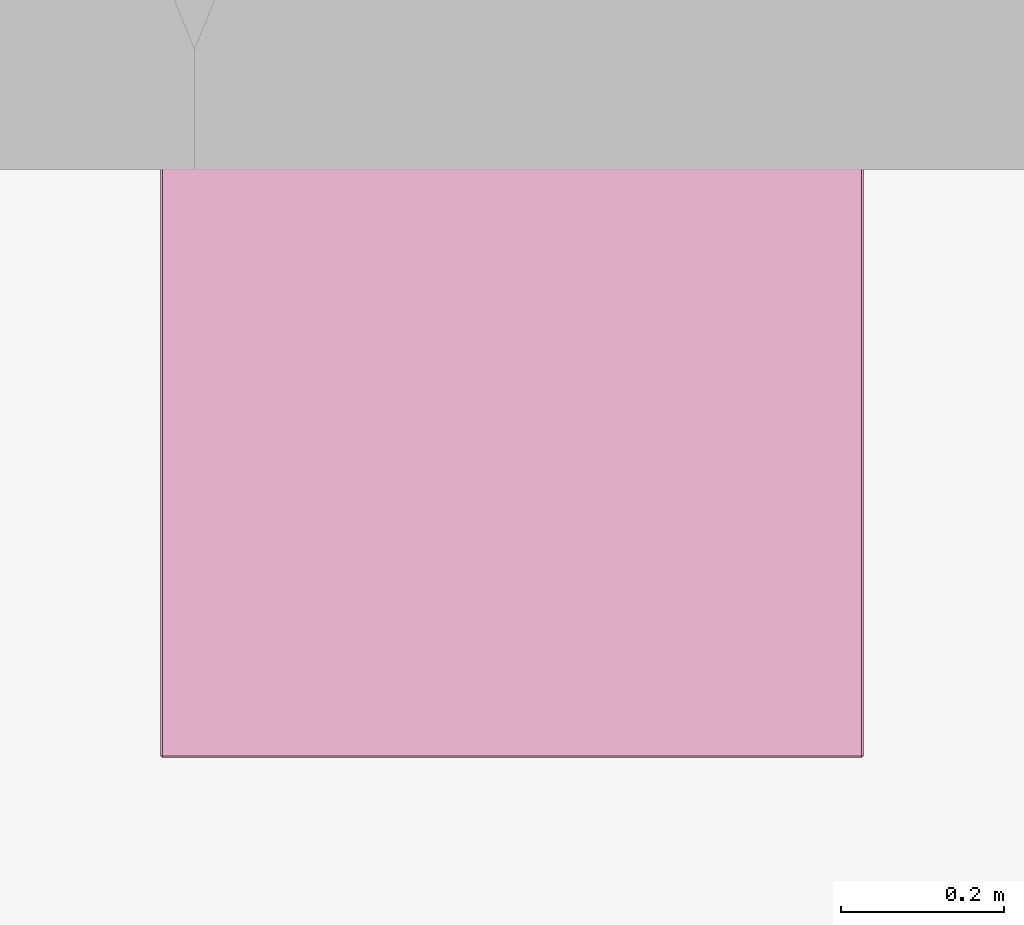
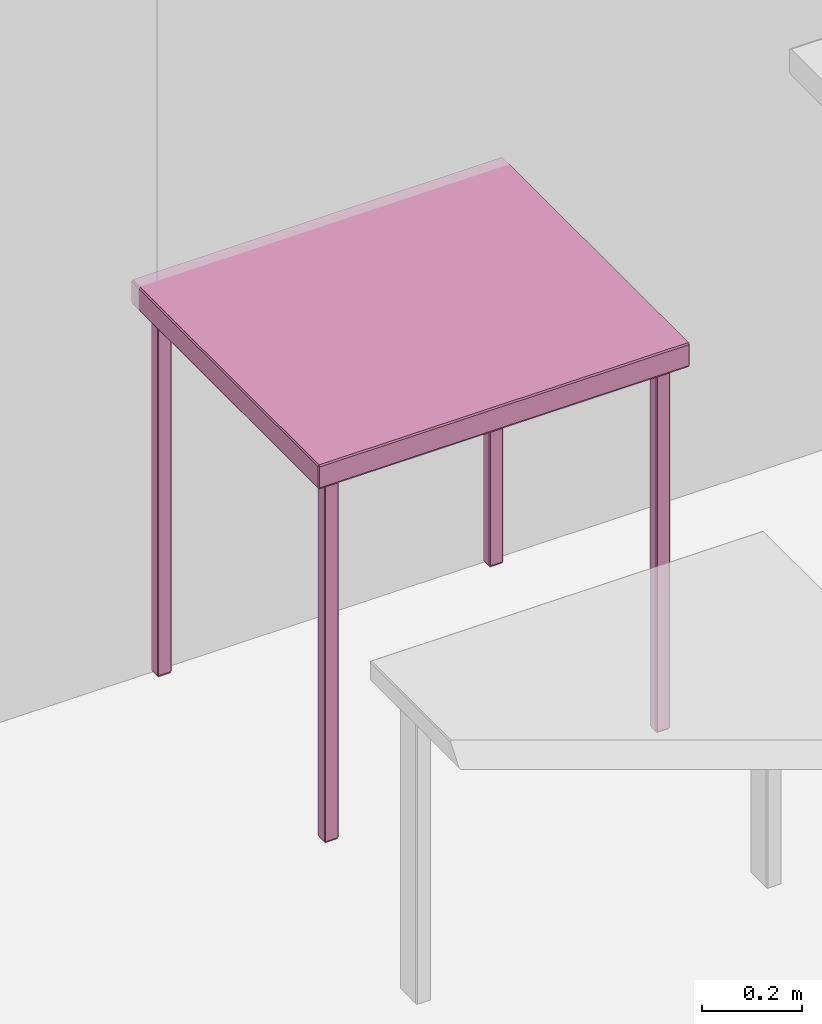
# One storey, part 5 of 8: 1 furniture element.
"""IFC4 building model written with IfcOpenShell, lengths in metres."""

from ifc_helpers import new_model, si_unit, direction, frame, origin_with_axes, place, context, project, spatial, polygons, type_object, element, save


model = new_model("IFC4")

# Units and contexts
model_context = context("Model", 3, precision=1e-05, world=origin_with_axes(), true_north=direction((-0.077, 0.997, 0.0)))
ifc_project = project(units=[si_unit("AREAUNIT", "SQUARE_METRE"), si_unit("LENGTHUNIT", "METRE")], contexts=[model_context])

# Site, building, storey, space
site_placement = place(None, origin_with_axes())
site = spatial("IfcSite", under=ifc_project, at=site_placement, Name="Site", CompositionType="ELEMENT")
building_placement = place(site_placement, origin_with_axes())
building = spatial("IfcBuilding", under=site, at=building_placement, Name="Building", CompositionType="ELEMENT")
storey_placement = place(building_placement, frame((0.0, 0.0, 0.0500000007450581), z_axis=(0.0, 0.0, 1.0), x_axis=(1.0, 0.0, 0.0)))
storey = spatial("IfcBuildingStorey", under=building, at=storey_placement, Name="Story 0", CompositionType="ELEMENT", Elevation=0.0500000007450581)
space_placement = place(storey_placement, frame((5.16750630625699, -1.75551257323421, 0.0), z_axis=(0.0, 0.0, 1.0), x_axis=(1.0, 0.0, 0.0)))
space = spatial("IfcSpace", under=storey, at=space_placement, Name="004", CompositionType="ELEMENT")

# Furniture
furniture_type = type_object("IfcFurnitureType", Name="d6a8cce7-fead-40f4-a13d-830bd7e59bea", AssemblyPlace="NOTDEFINED", PredefinedType="USERDEFINED")
furniture_placement = place(space_placement, frame((0.389085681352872, -0.341436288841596, 0.476418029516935), z_axis=(0.0, 0.0, 1.00000000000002), x_axis=(0.0, -1.00000011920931, 0.0)))
element("IfcFurniture", 1, at=furniture_placement, inside=space, type_object=furniture_type, Name="Table", ObjectType="Table", PredefinedType="USERDEFINED", context=model_context, shape_type="Tessellation", body=[
    polygons([(0.3744, 0.4304, 0.4212), (-0.3744, 0.4304, 0.4212), (0.3744, 0.4304, 0.4722), (-0.3744, 0.4304, 0.4722), (0.3744, 0.4304, 0.4722), (-0.3744, 0.4304, 0.4212), (0.3209, -0.3985, 0.4319), (0.3209, -0.3703, 0.4319), (0.3209, -0.3985, -0.4722), (0.3209, -0.3703, -0.4722), (0.3209, -0.3985, -0.4722), (0.3209, -0.3703, 0.4319), (0.3475, -0.4006, 0.4319), (0.3228, -0.4006, 0.4319), (0.3475, -0.4006, -0.4722), (0.3228, -0.4006, -0.4722), (0.3475, -0.4006, -0.4722), (0.3228, -0.4006, 0.4319), (0.3494, -0.3703, 0.4319), (0.3494, -0.3985, 0.4319), (0.3494, -0.3703, -0.4722), (0.3494, -0.3985, -0.4722), (0.3494, -0.3703, -0.4722), (0.3494, -0.3985, 0.4319), (0.3228, -0.3681, 0.4319), (0.3475, -0.3681, 0.4319), (0.3228, -0.3681, -0.4722), (0.3475, -0.3681, -0.4722), (0.3228, -0.3681, -0.4722), (0.3475, -0.3681, 0.4319), (0.3209, 0.3985, 0.4319), (0.3209, 0.3985, -0.4722), (0.3209, 0.3703, 0.4319), (0.3209, 0.3703, -0.4722), (0.3209, 0.3703, 0.4319), (0.3209, 0.3985, -0.4722), (0.3475, 0.4006, 0.4319), (0.3475, 0.4006, -0.4722), (0.3228, 0.4006, 0.4319), (0.3228, 0.4006, -0.4722), (0.3228, 0.4006, 0.4319), (0.3475, 0.4006, -0.4722), (0.3494, 0.3703, 0.4319), (0.3494, 0.3703, -0.4722), (0.3494, 0.3985, 0.4319), (0.3494, 0.3985, -0.4722), (0.3494, 0.3985, 0.4319), (0.3494, 0.3703, -0.4722), (0.3228, 0.3681, 0.4319), (0.3228, 0.3681, -0.4722), (0.3475, 0.3681, 0.4319), (0.3475, 0.3681, -0.4722), (0.3475, 0.3681, 0.4319), (0.3228, 0.3681, -0.4722), (0.3763, 0.4282, 0.4212), (0.3763, 0.4282, 0.4722), (0.3763, -0.4282, 0.4212), (0.3763, -0.4282, 0.4722), (0.3763, -0.4282, 0.4212), (0.3763, 0.4282, 0.4722), (-0.3763, 0.4282, 0.4722), (-0.3763, 0.4282, 0.4212), (-0.3763, -0.4282, 0.4722), (-0.3763, -0.4282, 0.4212), (-0.3763, -0.4282, 0.4722), (-0.3763, 0.4282, 0.4212), (-0.3209, -0.3985, 0.4319), (-0.3209, -0.3985, -0.4722), (-0.3209, -0.3703, 0.4319), (-0.3209, -0.3703, -0.4722), (-0.3209, -0.3703, 0.4319), (-0.3209, -0.3985, -0.4722), (-0.3475, -0.4006, 0.4319), (-0.3475, -0.4006, -0.4722), (-0.3228, -0.4006, 0.4319), (-0.3228, -0.4006, -0.4722), (-0.3228, -0.4006, 0.4319), (-0.3475, -0.4006, -0.4722), (-0.3494, -0.3703, 0.4319), (-0.3494, -0.3703, -0.4722), (-0.3494, -0.3985, 0.4319), (-0.3494, -0.3985, -0.4722), (-0.3494, -0.3985, 0.4319), (-0.3494, -0.3703, -0.4722), (-0.3228, -0.3681, 0.4319), (-0.3228, -0.3681, -0.4722), (-0.3475, -0.3681, 0.4319), (-0.3475, -0.3681, -0.4722), (-0.3475, -0.3681, 0.4319), (-0.3228, -0.3681, -0.4722), (-0.3209, 0.3985, 0.4319), (-0.3209, 0.3703, 0.4319), (-0.3209, 0.3985, -0.4722), (-0.3209, 0.3703, -0.4722), (-0.3209, 0.3985, -0.4722), (-0.3209, 0.3703, 0.4319), (-0.3475, 0.4006, 0.4319), (-0.3228, 0.4006, 0.4319), (-0.3475, 0.4006, -0.4722), (-0.3228, 0.4006, -0.4722), (-0.3475, 0.4006, -0.4722), (-0.3228, 0.4006, 0.4319), (-0.3494, 0.3703, 0.4319), (-0.3494, 0.3985, 0.4319), (-0.3494, 0.3703, -0.4722), (-0.3494, 0.3985, -0.4722), (-0.3494, 0.3703, -0.4722), (-0.3494, 0.3985, 0.4319), (-0.3228, 0.3681, 0.4319), (-0.3475, 0.3681, 0.4319), (-0.3228, 0.3681, -0.4722), (-0.3475, 0.3681, -0.4722), (-0.3228, 0.3681, -0.4722), (-0.3475, 0.3681, 0.4319), (-0.3744, 0.4282, 0.4764), (-0.3744, -0.4282, 0.4764), (0.3744, 0.4282, 0.4764), (0.3744, -0.4282, 0.4764), (0.3744, 0.4282, 0.4764), (-0.3744, -0.4282, 0.4764), (0.3744, -0.4304, 0.4212), (0.3744, -0.4304, 0.4722), (-0.3744, -0.4304, 0.4212), (-0.3744, -0.4304, 0.4722), (-0.3744, -0.4304, 0.4212), (0.3744, -0.4304, 0.4722), (0.3744, -0.4282, 0.417), (-0.3744, -0.4282, 0.417), (0.3744, 0.4282, 0.417), (-0.3744, 0.4282, 0.417), (0.3744, 0.4282, 0.417), (-0.3744, -0.4282, 0.417), (0.3475, -0.3985, 0.4361), (0.3475, -0.3703, 0.4361), (0.3228, -0.3985, 0.4361), (0.3228, -0.3703, 0.4361), (0.3228, -0.3985, 0.4361), (0.3475, -0.3703, 0.4361), (0.3475, -0.3703, -0.4764), (0.3475, -0.3985, -0.4764), (0.3228, -0.3703, -0.4764), (0.3228, -0.3985, -0.4764), (0.3228, -0.3703, -0.4764), (0.3475, -0.3985, -0.4764), (0.3475, 0.3985, -0.4764), (0.3475, 0.3703, -0.4764), (0.3228, 0.3985, -0.4764), (0.3228, 0.3703, -0.4764), (0.3228, 0.3985, -0.4764), (0.3475, 0.3703, -0.4764), (0.3475, 0.3703, 0.4361), (0.3475, 0.3985, 0.4361), (0.3228, 0.3703, 0.4361), (0.3228, 0.3985, 0.4361), (0.3228, 0.3703, 0.4361), (0.3475, 0.3985, 0.4361), (-0.3475, -0.3985, -0.4764), (-0.3475, -0.3703, -0.4764), (-0.3228, -0.3985, -0.4764), (-0.3228, -0.3703, -0.4764), (-0.3228, -0.3985, -0.4764), (-0.3475, -0.3703, -0.4764), (-0.3475, -0.3703, 0.4361), (-0.3475, -0.3985, 0.4361), (-0.3228, -0.3703, 0.4361), (-0.3228, -0.3985, 0.4361), (-0.3228, -0.3703, 0.4361), (-0.3475, -0.3985, 0.4361), (-0.3475, 0.3985, 0.4361), (-0.3475, 0.3703, 0.4361), (-0.3228, 0.3985, 0.4361), (-0.3228, 0.3703, 0.4361), (-0.3228, 0.3985, 0.4361), (-0.3475, 0.3703, 0.4361), (-0.3475, 0.3703, -0.4764), (-0.3475, 0.3985, -0.4764), (-0.3228, 0.3703, -0.4764), (-0.3228, 0.3985, -0.4764), (-0.3228, 0.3703, -0.4764), (-0.3475, 0.3985, -0.4764), (-0.3744, 0.4282, 0.4764), (-0.3744, 0.4304, 0.4722), (-0.3763, 0.4282, 0.4722), (0.3228, -0.3703, -0.4764), (0.3209, -0.3703, -0.4722), (0.3228, -0.3681, -0.4722), (0.3228, -0.3985, -0.4764), (0.3228, -0.4006, -0.4722), (0.3209, -0.3985, -0.4722), (0.3475, -0.3985, -0.4764), (0.3494, -0.3985, -0.4722), (0.3475, -0.4006, -0.4722), (0.3475, -0.3703, -0.4764), (0.3475, -0.3681, -0.4722), (0.3494, -0.3703, -0.4722), (0.3228, -0.3703, 0.4361), (0.3228, -0.3681, 0.4319), (0.3209, -0.3703, 0.4319), (0.3228, 0.3681, -0.4722), (0.3209, 0.3703, -0.4722), (0.3228, 0.3703, -0.4764), (0.3228, 0.3985, 0.4361), (0.3228, 0.4006, 0.4319), (0.3209, 0.3985, 0.4319), (0.3475, 0.3985, 0.4361), (0.3494, 0.3985, 0.4319), (0.3475, 0.4006, 0.4319), (0.3475, 0.3703, 0.4361), (0.3475, 0.3681, 0.4319), (0.3494, 0.3703, 0.4319), (0.3744, -0.4304, 0.4722), (0.3763, -0.4282, 0.4722), (0.3744, -0.4282, 0.4764), (0.3744, 0.4282, 0.4764), (0.3763, 0.4282, 0.4722), (0.3744, 0.4304, 0.4722), (-0.3744, -0.4304, 0.4212), (-0.3763, -0.4282, 0.4212), (-0.3744, -0.4282, 0.417), (-0.3744, 0.4282, 0.417), (-0.3763, 0.4282, 0.4212), (-0.3744, 0.4304, 0.4212), (-0.3228, -0.3681, -0.4722), (-0.3209, -0.3703, -0.4722), (-0.3228, -0.3703, -0.4764), (-0.3228, -0.3985, 0.4361), (-0.3228, -0.4006, 0.4319), (-0.3209, -0.3985, 0.4319), (-0.3475, -0.3985, 0.4361), (-0.3494, -0.3985, 0.4319), (-0.3475, -0.4006, 0.4319), (-0.3475, -0.3703, 0.4361), (-0.3475, -0.3681, 0.4319), (-0.3494, -0.3703, 0.4319), (-0.3228, 0.3703, -0.4764), (-0.3209, 0.3703, -0.4722), (-0.3228, 0.3681, -0.4722), (-0.3228, 0.3985, -0.4764), (-0.3228, 0.4006, -0.4722), (-0.3209, 0.3985, -0.4722), (-0.3475, 0.3985, -0.4764), (-0.3494, 0.3985, -0.4722), (-0.3475, 0.4006, -0.4722), (-0.3475, 0.3703, -0.4764), (-0.3475, 0.3681, -0.4722), (-0.3494, 0.3703, -0.4722), (-0.3228, 0.3703, 0.4361), (-0.3228, 0.3681, 0.4319), (-0.3209, 0.3703, 0.4319), (-0.3744, -0.4304, 0.4722), (-0.3744, -0.4282, 0.4764), (-0.3763, -0.4282, 0.4722), (0.3744, -0.4304, 0.4212), (0.3744, -0.4282, 0.417), (0.3763, -0.4282, 0.4212), (0.3763, 0.4282, 0.4212), (0.3744, 0.4282, 0.417), (0.3744, 0.4304, 0.4212), (0.3475, -0.3681, 0.4319), (0.3475, -0.3703, 0.4361), (0.3494, -0.3703, 0.4319), (0.3494, -0.3985, 0.4319), (0.3475, -0.3985, 0.4361), (0.3475, -0.4006, 0.4319), (0.3228, -0.4006, 0.4319), (0.3228, -0.3985, 0.4361), (0.3209, -0.3985, 0.4319), (0.3475, 0.3681, -0.4722), (0.3475, 0.3703, -0.4764), (0.3494, 0.3703, -0.4722), (0.3494, 0.3985, -0.4722), (0.3475, 0.3985, -0.4764), (0.3475, 0.4006, -0.4722), (0.3228, 0.4006, -0.4722), (0.3228, 0.3985, -0.4764), (0.3209, 0.3985, -0.4722), (0.3228, 0.3681, 0.4319), (0.3228, 0.3703, 0.4361), (0.3209, 0.3703, 0.4319), (-0.3475, -0.3681, -0.4722), (-0.3475, -0.3703, -0.4764), (-0.3494, -0.3703, -0.4722), (-0.3494, -0.3985, -0.4722), (-0.3475, -0.3985, -0.4764), (-0.3475, -0.4006, -0.4722), (-0.3228, -0.4006, -0.4722), (-0.3228, -0.3985, -0.4764), (-0.3209, -0.3985, -0.4722), (-0.3228, -0.3681, 0.4319), (-0.3228, -0.3703, 0.4361), (-0.3209, -0.3703, 0.4319), (-0.3475, 0.3681, 0.4319), (-0.3475, 0.3703, 0.4361), (-0.3494, 0.3703, 0.4319), (-0.3494, 0.3985, 0.4319), (-0.3475, 0.3985, 0.4361), (-0.3475, 0.4006, 0.4319), (-0.3228, 0.4006, 0.4319), (-0.3228, 0.3985, 0.4361), (-0.3209, 0.3985, 0.4319), (-0.3744, 0.4304, 0.4722), (-0.3744, 0.4304, 0.4212), (-0.3763, 0.4282, 0.4722), (-0.3763, 0.4282, 0.4212), (-0.3763, 0.4282, 0.4722), (-0.3744, 0.4304, 0.4212), (-0.3744, 0.4304, 0.4212), (0.3744, 0.4304, 0.4212), (-0.3744, 0.4282, 0.417), (0.3744, 0.4282, 0.417), (-0.3744, 0.4282, 0.417), (0.3744, 0.4304, 0.4212), (0.3744, 0.4304, 0.4212), (0.3744, 0.4304, 0.4722), (0.3763, 0.4282, 0.4212), (0.3763, 0.4282, 0.4722), (0.3763, 0.4282, 0.4212), (0.3744, 0.4304, 0.4722), (0.3744, 0.4304, 0.4722), (-0.3744, 0.4304, 0.4722), (0.3744, 0.4282, 0.4764), (-0.3744, 0.4282, 0.4764), (0.3744, 0.4282, 0.4764), (-0.3744, 0.4304, 0.4722), (0.3209, -0.3703, -0.4722), (0.3209, -0.3703, 0.4319), (0.3228, -0.3681, -0.4722), (0.3228, -0.3681, 0.4319), (0.3228, -0.3681, -0.4722), (0.3209, -0.3703, 0.4319), (0.3209, -0.3703, 0.4319), (0.3209, -0.3985, 0.4319), (0.3228, -0.3703, 0.4361), (0.3228, -0.3985, 0.4361), (0.3228, -0.3703, 0.4361), (0.3209, -0.3985, 0.4319), (0.3209, -0.3985, 0.4319), (0.3209, -0.3985, -0.4722), (0.3228, -0.4006, 0.4319), (0.3228, -0.4006, -0.4722), (0.3228, -0.4006, 0.4319), (0.3209, -0.3985, -0.4722), (0.3209, -0.3985, -0.4722), (0.3209, -0.3703, -0.4722), (0.3228, -0.3985, -0.4764), (0.3228, -0.3703, -0.4764), (0.3228, -0.3985, -0.4764), (0.3209, -0.3703, -0.4722), (0.3228, -0.4006, 0.4319), (0.3475, -0.4006, 0.4319), (0.3228, -0.3985, 0.4361), (0.3475, -0.3985, 0.4361), (0.3228, -0.3985, 0.4361), (0.3475, -0.4006, 0.4319), (0.3475, -0.4006, 0.4319), (0.3475, -0.4006, -0.4722), (0.3494, -0.3985, 0.4319), (0.3494, -0.3985, -0.4722), (0.3494, -0.3985, 0.4319), (0.3475, -0.4006, -0.4722), (0.3475, -0.4006, -0.4722), (0.3228, -0.4006, -0.4722), (0.3475, -0.3985, -0.4764), (0.3228, -0.3985, -0.4764), (0.3475, -0.3985, -0.4764), (0.3228, -0.4006, -0.4722), (0.3494, -0.3985, 0.4319), (0.3494, -0.3703, 0.4319), (0.3475, -0.3985, 0.4361), (0.3475, -0.3703, 0.4361), (0.3475, -0.3985, 0.4361), (0.3494, -0.3703, 0.4319), (0.3494, -0.3703, 0.4319), (0.3494, -0.3703, -0.4722), (0.3475, -0.3681, 0.4319), (0.3475, -0.3681, -0.4722), (0.3475, -0.3681, 0.4319), (0.3494, -0.3703, -0.4722), (0.3494, -0.3703, -0.4722), (0.3494, -0.3985, -0.4722), (0.3475, -0.3703, -0.4764), (0.3475, -0.3985, -0.4764), (0.3475, -0.3703, -0.4764), (0.3494, -0.3985, -0.4722), (0.3475, -0.3681, 0.4319), (0.3228, -0.3681, 0.4319), (0.3475, -0.3703, 0.4361), (0.3228, -0.3703, 0.4361), (0.3475, -0.3703, 0.4361), (0.3228, -0.3681, 0.4319), (0.3228, -0.3681, -0.4722), (0.3475, -0.3681, -0.4722), (0.3228, -0.3703, -0.4764), (0.3475, -0.3703, -0.4764), (0.3228, -0.3703, -0.4764), (0.3475, -0.3681, -0.4722), (0.3209, 0.3703, -0.4722), (0.3209, 0.3985, -0.4722), (0.3228, 0.3703, -0.4764), (0.3228, 0.3985, -0.4764), (0.3228, 0.3703, -0.4764), (0.3209, 0.3985, -0.4722), (0.3209, 0.3985, -0.4722), (0.3209, 0.3985, 0.4319), (0.3228, 0.4006, -0.4722), (0.3228, 0.4006, 0.4319), (0.3228, 0.4006, -0.4722), (0.3209, 0.3985, 0.4319), (0.3209, 0.3985, 0.4319), (0.3209, 0.3703, 0.4319), (0.3228, 0.3985, 0.4361), (0.3228, 0.3703, 0.4361), (0.3228, 0.3985, 0.4361), (0.3209, 0.3703, 0.4319), (0.3209, 0.3703, 0.4319), (0.3209, 0.3703, -0.4722), (0.3228, 0.3681, 0.4319), (0.3228, 0.3681, -0.4722), (0.3228, 0.3681, 0.4319), (0.3209, 0.3703, -0.4722), (0.3228, 0.4006, -0.4722), (0.3475, 0.4006, -0.4722), (0.3228, 0.3985, -0.4764), (0.3475, 0.3985, -0.4764), (0.3228, 0.3985, -0.4764), (0.3475, 0.4006, -0.4722), (0.3475, 0.4006, -0.4722), (0.3475, 0.4006, 0.4319), (0.3494, 0.3985, -0.4722), (0.3494, 0.3985, 0.4319), (0.3494, 0.3985, -0.4722), (0.3475, 0.4006, 0.4319), (0.3475, 0.4006, 0.4319), (0.3228, 0.4006, 0.4319), (0.3475, 0.3985, 0.4361), (0.3228, 0.3985, 0.4361), (0.3475, 0.3985, 0.4361), (0.3228, 0.4006, 0.4319), (0.3494, 0.3985, -0.4722), (0.3494, 0.3703, -0.4722), (0.3475, 0.3985, -0.4764), (0.3475, 0.3703, -0.4764), (0.3475, 0.3985, -0.4764), (0.3494, 0.3703, -0.4722), (0.3494, 0.3703, -0.4722), (0.3494, 0.3703, 0.4319), (0.3475, 0.3681, -0.4722), (0.3475, 0.3681, 0.4319), (0.3475, 0.3681, -0.4722), (0.3494, 0.3703, 0.4319), (0.3494, 0.3703, 0.4319), (0.3494, 0.3985, 0.4319), (0.3475, 0.3703, 0.4361), (0.3475, 0.3985, 0.4361), (0.3475, 0.3703, 0.4361), (0.3494, 0.3985, 0.4319), (0.3475, 0.3681, -0.4722), (0.3228, 0.3681, -0.4722), (0.3475, 0.3703, -0.4764), (0.3228, 0.3703, -0.4764), (0.3475, 0.3703, -0.4764), (0.3228, 0.3681, -0.4722), (0.3228, 0.3681, 0.4319), (0.3475, 0.3681, 0.4319), (0.3228, 0.3703, 0.4361), (0.3475, 0.3703, 0.4361), (0.3228, 0.3703, 0.4361), (0.3475, 0.3681, 0.4319), (0.3763, -0.4282, 0.4722), (0.3763, 0.4282, 0.4722), (0.3744, -0.4282, 0.4764), (0.3744, 0.4282, 0.4764), (0.3744, -0.4282, 0.4764), (0.3763, 0.4282, 0.4722), (0.3763, 0.4282, 0.4212), (0.3763, -0.4282, 0.4212), (0.3744, 0.4282, 0.417), (0.3744, -0.4282, 0.417), (0.3744, 0.4282, 0.417), (0.3763, -0.4282, 0.4212), (0.3763, -0.4282, 0.4212), (0.3763, -0.4282, 0.4722), (0.3744, -0.4304, 0.4212), (0.3744, -0.4304, 0.4722), (0.3744, -0.4304, 0.4212), (0.3763, -0.4282, 0.4722), (-0.3763, -0.4282, 0.4212), (-0.3763, 0.4282, 0.4212), (-0.3744, -0.4282, 0.417), (-0.3744, 0.4282, 0.417), (-0.3744, -0.4282, 0.417), (-0.3763, 0.4282, 0.4212), (-0.3763, 0.4282, 0.4722), (-0.3763, -0.4282, 0.4722), (-0.3744, 0.4282, 0.4764), (-0.3744, -0.4282, 0.4764), (-0.3744, 0.4282, 0.4764), (-0.3763, -0.4282, 0.4722), (-0.3763, -0.4282, 0.4722), (-0.3763, -0.4282, 0.4212), (-0.3744, -0.4304, 0.4722), (-0.3744, -0.4304, 0.4212), (-0.3744, -0.4304, 0.4722), (-0.3763, -0.4282, 0.4212), (-0.3209, -0.3703, -0.4722), (-0.3209, -0.3985, -0.4722), (-0.3228, -0.3703, -0.4764), (-0.3228, -0.3985, -0.4764), (-0.3228, -0.3703, -0.4764), (-0.3209, -0.3985, -0.4722), (-0.3209, -0.3985, -0.4722), (-0.3209, -0.3985, 0.4319), (-0.3228, -0.4006, -0.4722), (-0.3228, -0.4006, 0.4319), (-0.3228, -0.4006, -0.4722), (-0.3209, -0.3985, 0.4319), (-0.3209, -0.3985, 0.4319), (-0.3209, -0.3703, 0.4319), (-0.3228, -0.3985, 0.4361), (-0.3228, -0.3703, 0.4361), (-0.3228, -0.3985, 0.4361), (-0.3209, -0.3703, 0.4319), (-0.3209, -0.3703, 0.4319), (-0.3209, -0.3703, -0.4722), (-0.3228, -0.3681, 0.4319), (-0.3228, -0.3681, -0.4722), (-0.3228, -0.3681, 0.4319), (-0.3209, -0.3703, -0.4722), (-0.3228, -0.4006, -0.4722), (-0.3475, -0.4006, -0.4722), (-0.3228, -0.3985, -0.4764), (-0.3475, -0.3985, -0.4764), (-0.3228, -0.3985, -0.4764), (-0.3475, -0.4006, -0.4722), (-0.3475, -0.4006, -0.4722), (-0.3475, -0.4006, 0.4319), (-0.3494, -0.3985, -0.4722), (-0.3494, -0.3985, 0.4319), (-0.3494, -0.3985, -0.4722), (-0.3475, -0.4006, 0.4319), (-0.3475, -0.4006, 0.4319), (-0.3228, -0.4006, 0.4319), (-0.3475, -0.3985, 0.4361), (-0.3228, -0.3985, 0.4361), (-0.3475, -0.3985, 0.4361), (-0.3228, -0.4006, 0.4319), (-0.3494, -0.3985, -0.4722), (-0.3494, -0.3703, -0.4722), (-0.3475, -0.3985, -0.4764), (-0.3475, -0.3703, -0.4764), (-0.3475, -0.3985, -0.4764), (-0.3494, -0.3703, -0.4722), (-0.3494, -0.3703, -0.4722), (-0.3494, -0.3703, 0.4319), (-0.3475, -0.3681, -0.4722), (-0.3475, -0.3681, 0.4319), (-0.3475, -0.3681, -0.4722), (-0.3494, -0.3703, 0.4319), (-0.3494, -0.3703, 0.4319), (-0.3494, -0.3985, 0.4319), (-0.3475, -0.3703, 0.4361), (-0.3475, -0.3985, 0.4361), (-0.3475, -0.3703, 0.4361), (-0.3494, -0.3985, 0.4319), (-0.3475, -0.3681, -0.4722), (-0.3228, -0.3681, -0.4722), (-0.3475, -0.3703, -0.4764), (-0.3228, -0.3703, -0.4764), (-0.3475, -0.3703, -0.4764), (-0.3228, -0.3681, -0.4722), (-0.3228, -0.3681, 0.4319), (-0.3475, -0.3681, 0.4319), (-0.3228, -0.3703, 0.4361), (-0.3475, -0.3703, 0.4361), (-0.3228, -0.3703, 0.4361), (-0.3475, -0.3681, 0.4319), (-0.3209, 0.3703, -0.4722), (-0.3209, 0.3703, 0.4319), (-0.3228, 0.3681, -0.4722), (-0.3228, 0.3681, 0.4319), (-0.3228, 0.3681, -0.4722), (-0.3209, 0.3703, 0.4319), (-0.3209, 0.3703, 0.4319), (-0.3209, 0.3985, 0.4319), (-0.3228, 0.3703, 0.4361), (-0.3228, 0.3985, 0.4361), (-0.3228, 0.3703, 0.4361), (-0.3209, 0.3985, 0.4319), (-0.3209, 0.3985, 0.4319), (-0.3209, 0.3985, -0.4722), (-0.3228, 0.4006, 0.4319), (-0.3228, 0.4006, -0.4722), (-0.3228, 0.4006, 0.4319), (-0.3209, 0.3985, -0.4722), (-0.3209, 0.3985, -0.4722), (-0.3209, 0.3703, -0.4722), (-0.3228, 0.3985, -0.4764), (-0.3228, 0.3703, -0.4764), (-0.3228, 0.3985, -0.4764), (-0.3209, 0.3703, -0.4722), (-0.3228, 0.4006, 0.4319), (-0.3475, 0.4006, 0.4319), (-0.3228, 0.3985, 0.4361), (-0.3475, 0.3985, 0.4361), (-0.3228, 0.3985, 0.4361), (-0.3475, 0.4006, 0.4319), (-0.3475, 0.4006, 0.4319), (-0.3475, 0.4006, -0.4722), (-0.3494, 0.3985, 0.4319), (-0.3494, 0.3985, -0.4722), (-0.3494, 0.3985, 0.4319), (-0.3475, 0.4006, -0.4722), (-0.3475, 0.4006, -0.4722), (-0.3228, 0.4006, -0.4722), (-0.3475, 0.3985, -0.4764), (-0.3228, 0.3985, -0.4764), (-0.3475, 0.3985, -0.4764), (-0.3228, 0.4006, -0.4722), (-0.3494, 0.3985, 0.4319), (-0.3494, 0.3703, 0.4319), (-0.3475, 0.3985, 0.4361), (-0.3475, 0.3703, 0.4361), (-0.3475, 0.3985, 0.4361), (-0.3494, 0.3703, 0.4319), (-0.3494, 0.3703, 0.4319), (-0.3494, 0.3703, -0.4722), (-0.3475, 0.3681, 0.4319), (-0.3475, 0.3681, -0.4722), (-0.3475, 0.3681, 0.4319), (-0.3494, 0.3703, -0.4722), (-0.3494, 0.3703, -0.4722), (-0.3494, 0.3985, -0.4722), (-0.3475, 0.3703, -0.4764), (-0.3475, 0.3985, -0.4764), (-0.3475, 0.3703, -0.4764), (-0.3494, 0.3985, -0.4722), (-0.3475, 0.3681, 0.4319), (-0.3228, 0.3681, 0.4319), (-0.3475, 0.3703, 0.4361), (-0.3228, 0.3703, 0.4361), (-0.3475, 0.3703, 0.4361), (-0.3228, 0.3681, 0.4319), (-0.3228, 0.3681, -0.4722), (-0.3475, 0.3681, -0.4722), (-0.3228, 0.3703, -0.4764), (-0.3475, 0.3703, -0.4764), (-0.3228, 0.3703, -0.4764), (-0.3475, 0.3681, -0.4722), (0.3744, -0.4282, 0.4764), (-0.3744, -0.4282, 0.4764), (0.3744, -0.4304, 0.4722), (-0.3744, -0.4304, 0.4722), (0.3744, -0.4304, 0.4722), (-0.3744, -0.4282, 0.4764), (0.3744, -0.4304, 0.4212), (-0.3744, -0.4304, 0.4212), (0.3744, -0.4282, 0.417), (-0.3744, -0.4282, 0.417), (0.3744, -0.4282, 0.417), (-0.3744, -0.4304, 0.4212)], [[[1, 2, 3]], [[4, 5, 6]], [[7, 8, 9]], [[10, 11, 12]], [[13, 14, 15]], [[16, 17, 18]], [[19, 20, 21]], [[22, 23, 24]], [[25, 26, 27]], [[28, 29, 30]], [[31, 32, 33]], [[34, 35, 36]], [[37, 38, 39]], [[40, 41, 42]], [[43, 44, 45]], [[46, 47, 48]], [[49, 50, 51]], [[52, 53, 54]], [[55, 56, 57]], [[58, 59, 60]], [[61, 62, 63]], [[64, 65, 66]], [[67, 68, 69]], [[70, 71, 72]], [[73, 74, 75]], [[76, 77, 78]], [[79, 80, 81]], [[82, 83, 84]], [[85, 86, 87]], [[88, 89, 90]], [[91, 92, 93]], [[94, 95, 96]], [[97, 98, 99]], [[100, 101, 102]], [[103, 104, 105]], [[106, 107, 108]], [[109, 110, 111]], [[112, 113, 114]], [[115, 116, 117]], [[118, 119, 120]], [[121, 122, 123]], [[124, 125, 126]], [[127, 128, 129]], [[130, 131, 132]], [[133, 134, 135]], [[136, 137, 138]], [[139, 140, 141]], [[142, 143, 144]], [[145, 146, 147]], [[148, 149, 150]], [[151, 152, 153]], [[154, 155, 156]], [[157, 158, 159]], [[160, 161, 162]], [[163, 164, 165]], [[166, 167, 168]], [[169, 170, 171]], [[172, 173, 174]], [[175, 176, 177]], [[178, 179, 180]], [[181, 182, 183]], [[184, 185, 186]], [[187, 188, 189]], [[190, 191, 192]], [[193, 194, 195]], [[196, 197, 198]], [[199, 200, 201]], [[202, 203, 204]], [[205, 206, 207]], [[208, 209, 210]], [[211, 212, 213]], [[214, 215, 216]], [[217, 218, 219]], [[220, 221, 222]], [[223, 224, 225]], [[226, 227, 228]], [[229, 230, 231]], [[232, 233, 234]], [[235, 236, 237]], [[238, 239, 240]], [[241, 242, 243]], [[244, 245, 246]], [[247, 248, 249]], [[250, 251, 252]], [[253, 254, 255]], [[256, 257, 258]], [[259, 260, 261]], [[262, 263, 264]], [[265, 266, 267]], [[268, 269, 270]], [[271, 272, 273]], [[274, 275, 276]], [[277, 278, 279]], [[280, 281, 282]], [[283, 284, 285]], [[286, 287, 288]], [[289, 290, 291]], [[292, 293, 294]], [[295, 296, 297]], [[298, 299, 300]], [[301, 302, 303]], [[304, 305, 306]], [[307, 308, 309]], [[310, 311, 312]], [[313, 314, 315]], [[316, 317, 318]], [[319, 320, 321]], [[322, 323, 324]], [[325, 326, 327]], [[328, 329, 330]], [[331, 332, 333]], [[334, 335, 336]], [[337, 338, 339]], [[340, 341, 342]], [[343, 344, 345]], [[346, 347, 348]], [[349, 350, 351]], [[352, 353, 354]], [[355, 356, 357]], [[358, 359, 360]], [[361, 362, 363]], [[364, 365, 366]], [[367, 368, 369]], [[370, 371, 372]], [[373, 374, 375]], [[376, 377, 378]], [[379, 380, 381]], [[382, 383, 384]], [[385, 386, 387]], [[388, 389, 390]], [[391, 392, 393]], [[394, 395, 396]], [[397, 398, 399]], [[400, 401, 402]], [[403, 404, 405]], [[406, 407, 408]], [[409, 410, 411]], [[412, 413, 414]], [[415, 416, 417]], [[418, 419, 420]], [[421, 422, 423]], [[424, 425, 426]], [[427, 428, 429]], [[430, 431, 432]], [[433, 434, 435]], [[436, 437, 438]], [[439, 440, 441]], [[442, 443, 444]], [[445, 446, 447]], [[448, 449, 450]], [[451, 452, 453]], [[454, 455, 456]], [[457, 458, 459]], [[460, 461, 462]], [[463, 464, 465]], [[466, 467, 468]], [[469, 470, 471]], [[472, 473, 474]], [[475, 476, 477]], [[478, 479, 480]], [[481, 482, 483]], [[484, 485, 486]], [[487, 488, 489]], [[490, 491, 492]], [[493, 494, 495]], [[496, 497, 498]], [[499, 500, 501]], [[502, 503, 504]], [[505, 506, 507]], [[508, 509, 510]], [[511, 512, 513]], [[514, 515, 516]], [[517, 518, 519]], [[520, 521, 522]], [[523, 524, 525]], [[526, 527, 528]], [[529, 530, 531]], [[532, 533, 534]], [[535, 536, 537]], [[538, 539, 540]], [[541, 542, 543]], [[544, 545, 546]], [[547, 548, 549]], [[550, 551, 552]], [[553, 554, 555]], [[556, 557, 558]], [[559, 560, 561]], [[562, 563, 564]], [[565, 566, 567]], [[568, 569, 570]], [[571, 572, 573]], [[574, 575, 576]], [[577, 578, 579]], [[580, 581, 582]], [[583, 584, 585]], [[586, 587, 588]], [[589, 590, 591]], [[592, 593, 594]], [[595, 596, 597]], [[598, 599, 600]], [[601, 602, 603]], [[604, 605, 606]], [[607, 608, 609]], [[610, 611, 612]], [[613, 614, 615]], [[616, 617, 618]], [[619, 620, 621]], [[622, 623, 624]], [[625, 626, 627]], [[628, 629, 630]], [[631, 632, 633]], [[634, 635, 636]], [[637, 638, 639]], [[640, 641, 642]], [[643, 644, 645]], [[646, 647, 648]], [[649, 650, 651]], [[652, 653, 654]], [[655, 656, 657]], [[658, 659, 660]]]),
])

save(model, "model.ifc")
